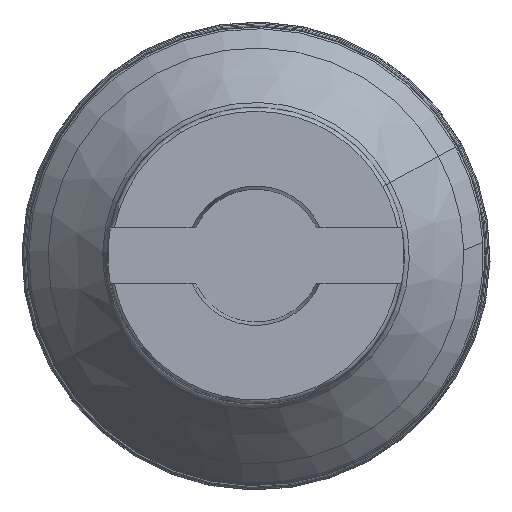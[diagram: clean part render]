
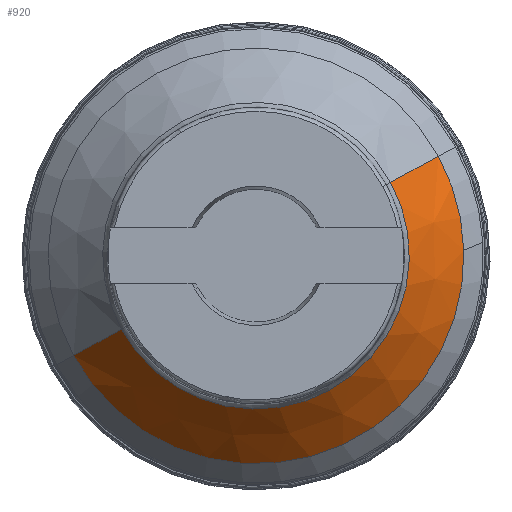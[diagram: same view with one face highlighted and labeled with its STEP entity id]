
A CAD part, top view. The second image highlights one B-rep face of the part: STEP entity #920.
In plain terms, the highlighted conical face has half-angle 40.735 degrees and reference radius 43.954 mm.
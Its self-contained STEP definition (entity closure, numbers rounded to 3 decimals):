
#860=AXIS2_PLACEMENT_3D('Circle Axis2P3D',#858,#859,$) ;
#873=AXIS2_PLACEMENT_3D('Cone Axis2P3D',#870,#871,#872) ;
#903=AXIS2_PLACEMENT_3D('Circle Axis2P3D',#901,#902,$) ;
#910=AXIS2_PLACEMENT_3D('Circle Axis2P3D',#908,#909,$) ;
#651=CARTESIAN_POINT('Vertex',(38.573,21.072,45.312)) ;
#653=CARTESIAN_POINT('Vertex',(-38.573,-21.072,45.312)) ;
#858=CARTESIAN_POINT('Axis2P3D Location',(0.,0.,45.312)) ;
#870=CARTESIAN_POINT('Axis2P3D Location',(0.,0.,45.312)) ;
#875=CARTESIAN_POINT('Line Origine',(45.44,24.824,36.226)) ;
#879=CARTESIAN_POINT('Vertex',(52.306,28.575,27.141)) ;
#886=CARTESIAN_POINT('Vertex',(-52.306,-28.575,27.141)) ;
#889=CARTESIAN_POINT('Line Origine',(-45.44,-24.824,36.226)) ;
#901=CARTESIAN_POINT('Axis2P3D Location',(0.,0.,27.141)) ;
#905=CARTESIAN_POINT('Vertex',(59.582,1.575,27.141)) ;
#908=CARTESIAN_POINT('Axis2P3D Location',(0.,0.,27.141)) ;
#859=DIRECTION('Axis2P3D Direction',(0.,0.,1.)) ;
#871=DIRECTION('Axis2P3D Direction',(0.,0.,-1.)) ;
#872=DIRECTION('Axis2P3D XDirection',(0.878,0.479,0.)) ;
#876=DIRECTION('Vector Direction',(0.573,0.313,-0.758)) ;
#890=DIRECTION('Vector Direction',(-0.573,-0.313,-0.758)) ;
#902=DIRECTION('Axis2P3D Direction',(0.,0.,-1.)) ;
#909=DIRECTION('Axis2P3D Direction',(0.,0.,-1.)) ;
#877=VECTOR('Line Direction',#876,1.) ;
#891=VECTOR('Line Direction',#890,1.) ;
#914=ORIENTED_EDGE('',*,*,#907,.T.) ;
#915=ORIENTED_EDGE('',*,*,#912,.T.) ;
#916=ORIENTED_EDGE('',*,*,#881,.F.) ;
#917=ORIENTED_EDGE('',*,*,#862,.F.) ;
#918=ORIENTED_EDGE('',*,*,#893,.T.) ;
#920=ADVANCED_FACE('NOCUT',(#919),#874,.T.) ;
#861=CIRCLE('generated circle',#860,43.954) ;
#904=CIRCLE('generated circle',#903,59.603) ;
#911=CIRCLE('generated circle',#910,59.603) ;
#874=CONICAL_SURFACE('Cone',#873,43.954,0.711) ;
#862=EDGE_CURVE('',#654,#652,#861,.T.) ;
#881=EDGE_CURVE('',#652,#880,#878,.T.) ;
#893=EDGE_CURVE('',#654,#887,#892,.T.) ;
#907=EDGE_CURVE('',#887,#906,#904,.F.) ;
#912=EDGE_CURVE('',#906,#880,#911,.F.) ;
#913=EDGE_LOOP('',(#914,#915,#916,#917,#918)) ;
#919=FACE_OUTER_BOUND('',#913,.T.) ;
#878=LINE('Line',#875,#877) ;
#892=LINE('Line',#889,#891) ;
#652=VERTEX_POINT('',#651) ;
#654=VERTEX_POINT('',#653) ;
#880=VERTEX_POINT('',#879) ;
#887=VERTEX_POINT('',#886) ;
#906=VERTEX_POINT('',#905) ;
